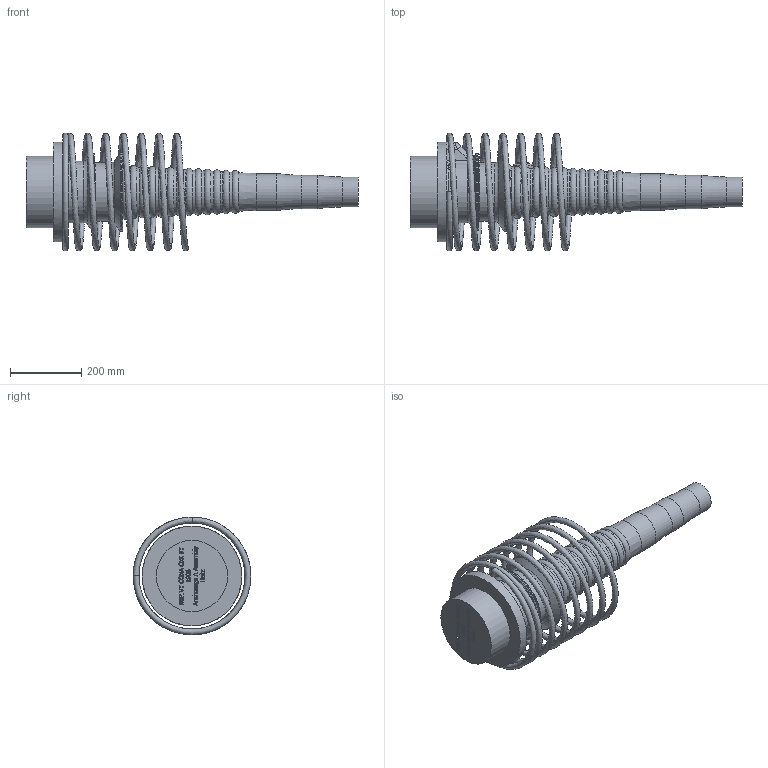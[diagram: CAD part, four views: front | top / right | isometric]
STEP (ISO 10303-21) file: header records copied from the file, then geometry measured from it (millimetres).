
FILE_DESCRIPTION(/* description */ (''),/* implementation_level */ '2;1');
FILE_NAME(/* name */ 'BBR VT CONA CMI BT 1906_Anchorage A Assembly_CS-43,35_Helix.stp',/* time_stamp */ '2025-04-28T15:41:09+02:00',/* author */ ('tk'),/* organization */ (''),/* preprocessor_version */ 'ST-DEVELOPER v20',/* originating_system */ 'Autodesk Inventor 2024',/* authorisation */ '');
FILE_SCHEMA (('AUTOMOTIVE_DESIGN { 1 0 10303 214 3 1 1 }'));
Length unit declared in the file: millimetre
Products named in the file (1): BBR VT CONA CMI BT 1906_Anchorage A Assembly_CS-43,35_Helix
Bounding box: 932 x 330 x 329.99 mm (x, y, z)
Volume: 16702503.4 mm3; surface area: 949683.2 mm2
Topology: 2 solids, 2 shells, 792 faces, 2109 edges, 1385 vertices
Faces by surface type: plane 369, bspline 327, torus 54, cone 19, cylinder 13, sphere 10
Full cylindrical faces by diameter (mm): 34 x1, 57 x1, 84 x1, 94 x1, 104 x1, 164 x1, 200 x1, 218 x1, 223.017 x1, 280 x1
Entity records: 31937 total; most frequent: CARTESIAN_POINT 13449, ORIENTED_EDGE 4214, DIRECTION 2596, EDGE_CURVE 2107, VERTEX_POINT 1385, LINE 1216, VECTOR 1216, EDGE_LOOP 860
